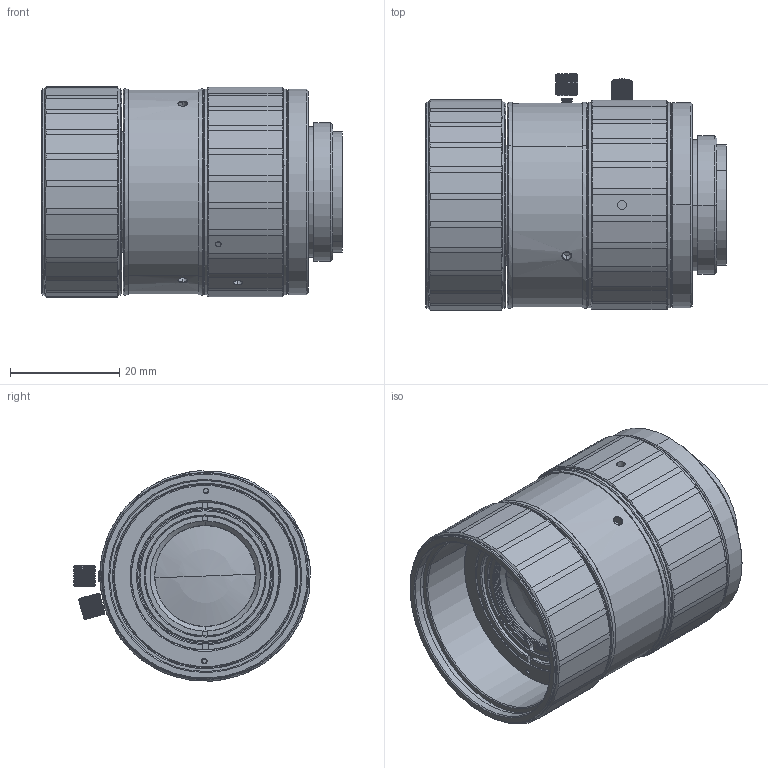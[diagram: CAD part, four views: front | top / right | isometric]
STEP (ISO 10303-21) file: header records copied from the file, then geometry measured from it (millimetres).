
FILE_DESCRIPTION((''),'2;1');
FILE_NAME('ASM0001_ASM','2025-02-25T13:34:34',('re_ay'),(''),'CREO PARAMETRIC BY PTC INC, 2023073','CREO PARAMETRIC BY PTC INC, 2023073','');
FILE_SCHEMA(('AUTOMOTIVE_DESIGN { 1 0 10303 214 1 1 1 1 }'));
Length unit declared in the file: metre
Products named in the file (24): FA3540M25Q1_2_1_1_2; FA3540M25Q1_2_2_1; FA3540M25Q1_2_3_1; FA3540M25Q1_2_4_1; FA3540M25Q1_2_5_1; FA3540M25Q1_2_6_1; FA3540M25Q1_2_7_1; FA3540M25Q1_2_8_1; FA3540M25Q1_2_9_1; FA3540M25Q1_2_10_1; FA3540M25Q1_2_11_1; FA3540M25Q1_2_12_1; FA3540M25Q1_2_13_1; FA3540M25Q1_2_14_1; FA3540M25Q1_2_15_1; FA3540M25Q1_2_16_1; FA3540M25Q1_2_17_1; FA3540M25Q1_2_18_1; FA3540M25Q1_2_19_1; FA3540M25Q1_2_20_1; FA3540M25Q1_2_21_1; FA3540M25Q1_2_22_1; FA3540M25Q1_2_23_ASM; ASM0001_ASM
Assembly tree (23 placements, depth 3):
  ASM0001_ASM
    FA3540M25Q1_2_23_ASM
      FA3540M25Q1_2_1_1_2
      FA3540M25Q1_2_2_1
      FA3540M25Q1_2_3_1
      FA3540M25Q1_2_4_1
      FA3540M25Q1_2_5_1
      FA3540M25Q1_2_6_1
      FA3540M25Q1_2_7_1
      FA3540M25Q1_2_8_1
      FA3540M25Q1_2_9_1
      FA3540M25Q1_2_10_1
      FA3540M25Q1_2_11_1
      FA3540M25Q1_2_12_1
      FA3540M25Q1_2_13_1
      FA3540M25Q1_2_14_1
      FA3540M25Q1_2_15_1
      FA3540M25Q1_2_16_1
      FA3540M25Q1_2_17_1
      FA3540M25Q1_2_18_1
      FA3540M25Q1_2_19_1
      FA3540M25Q1_2_20_1
      FA3540M25Q1_2_21_1
      FA3540M25Q1_2_22_1
Bounding box: 55.09 x 43.38 x 38.55 mm (x, y, z)
Surface area: 13715.9 mm2 (no closed solid volume)
Topology: 0 solids, 24 shells, 691 faces, 2358 edges, 1617 vertices
Faces by surface type: plane 318, cylinder 227, cone 124, torus 12, bspline 6, sphere 4
Entity records: 36767 total; most frequent: CARTESIAN_POINT 11589, ORIENTED_EDGE 4053, DIRECTION 3936, EDGE_CURVE 2354, VERTEX_POINT 1617, AXIS2_PLACEMENT_3D 1514, VECTOR 908, LINE 908
